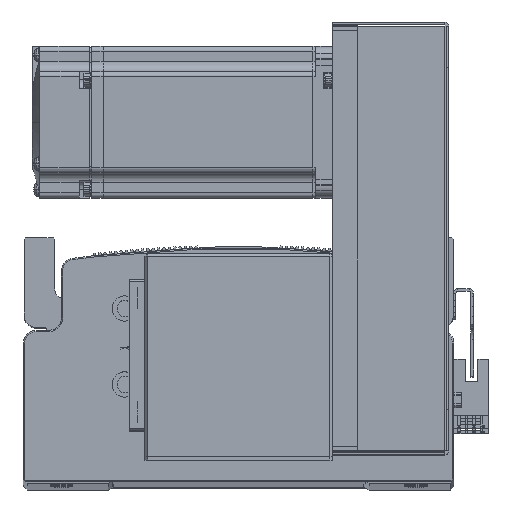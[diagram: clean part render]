
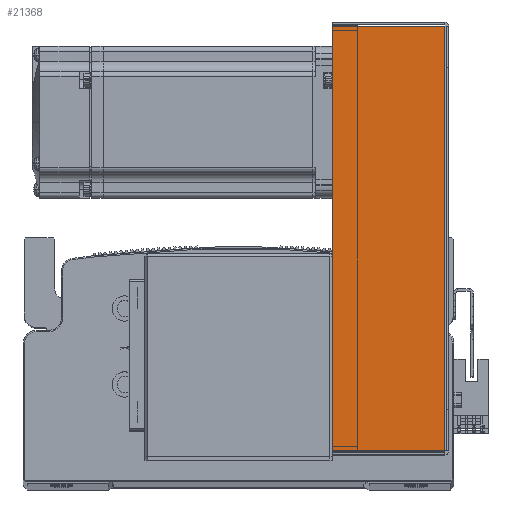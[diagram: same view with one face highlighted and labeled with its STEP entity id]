
A CAD part, top view. The second image highlights one B-rep face of the part: STEP entity #21368.
In plain terms, the highlighted planar face has unit normal (0, 0, 1).
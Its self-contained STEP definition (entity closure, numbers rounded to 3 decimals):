
#21368 = ADVANCED_FACE ( 'NONE', ( #36747 ), #44024, .F. ) ;
#33913 = AXIS2_PLACEMENT_3D ( 'NONE', #44034, #43996, #44008 ) ;
#36747 = FACE_OUTER_BOUND ( 'NONE', #65294, .T. ) ;
#43996 = DIRECTION ( 'NONE',  ( 0., 0., -1. ) ) ;
#44008 = DIRECTION ( 'NONE',  ( -1., 0., 0. ) ) ;
#44024 = PLANE ( 'NONE',  #33913 ) ;
#44034 = CARTESIAN_POINT ( 'NONE',  ( 0., 0., 40.5 ) ) ;
#46445 = VECTOR ( 'NONE', #49873, 1000. ) ;
#46449 = VECTOR ( 'NONE', #49923, 1000. ) ;
#46455 = LINE ( 'NONE', #49839, #46481 ) ;
#46479 = LINE ( 'NONE', #49870, #46449 ) ;
#46481 = VECTOR ( 'NONE', #49882, 1000. ) ;
#46482 = LINE ( 'NONE', #49846, #46445 ) ;
#49645 = DIRECTION ( 'NONE',  ( 0., 1., 0. ) ) ;
#49649 = CARTESIAN_POINT ( 'NONE',  ( 83.793, 0., 40.5 ) ) ;
#49839 = CARTESIAN_POINT ( 'NONE',  ( 0., 0.737, 40.5 ) ) ;
#49846 = CARTESIAN_POINT ( 'NONE',  ( -83.793, 0., 40.5 ) ) ;
#49870 = CARTESIAN_POINT ( 'NONE',  ( -84.5, 45., 40.5 ) ) ;
#49873 = DIRECTION ( 'NONE',  ( 0., 1., 0. ) ) ;
#49882 = DIRECTION ( 'NONE',  ( -1., 0., 0. ) ) ;
#49923 = DIRECTION ( 'NONE',  ( -1., 0., 0. ) ) ;
#60913 = VERTEX_POINT ( 'NONE', #65840 ) ;
#60919 = VERTEX_POINT ( 'NONE', #65836 ) ;
#60965 = VERTEX_POINT ( 'NONE', #65871 ) ;
#60969 = VERTEX_POINT ( 'NONE', #65885 ) ;
#63141 = LINE ( 'NONE', #49649, #63142 ) ;
#63142 = VECTOR ( 'NONE', #49645, 1000. ) ;
#65294 = EDGE_LOOP ( 'NONE', ( #82101, #82148, #82215, #82253 ) ) ;
#65836 = CARTESIAN_POINT ( 'NONE',  ( -83.793, 0.737, 40.5 ) ) ;
#65840 = CARTESIAN_POINT ( 'NONE',  ( 83.793, 45., 40.5 ) ) ;
#65871 = CARTESIAN_POINT ( 'NONE',  ( 83.793, 0.737, 40.5 ) ) ;
#65885 = CARTESIAN_POINT ( 'NONE',  ( -83.793, 45., 40.5 ) ) ;
#69422 = EDGE_CURVE ( 'NONE', #60965, #60913, #63141, .T. ) ;
#69488 = EDGE_CURVE ( 'NONE', #60965, #60919, #46455, .T. ) ;
#69495 = EDGE_CURVE ( 'NONE', #60919, #60969, #46482, .T. ) ;
#69502 = EDGE_CURVE ( 'NONE', #60913, #60969, #46479, .T. ) ;
#82101 = ORIENTED_EDGE ( 'NONE', *, *, #69488, .F. ) ;
#82148 = ORIENTED_EDGE ( 'NONE', *, *, #69422, .T. ) ;
#82215 = ORIENTED_EDGE ( 'NONE', *, *, #69502, .T. ) ;
#82253 = ORIENTED_EDGE ( 'NONE', *, *, #69495, .F. ) ;
